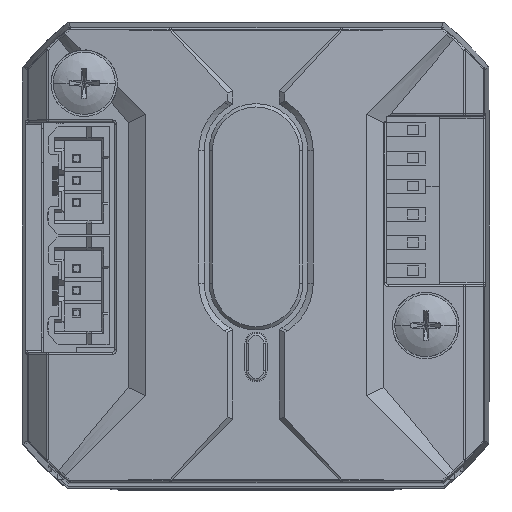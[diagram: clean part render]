
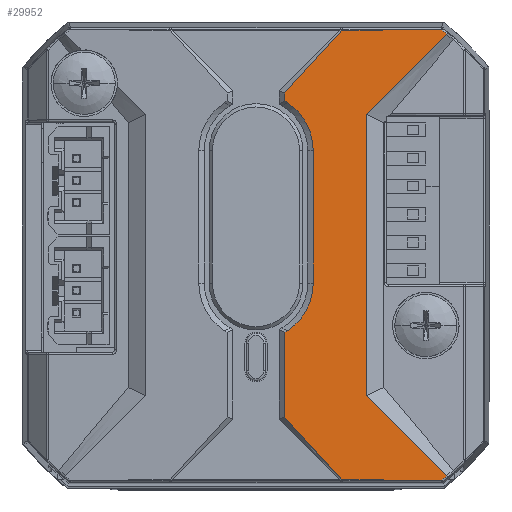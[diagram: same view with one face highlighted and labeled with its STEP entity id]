
A CAD part, top view. The second image highlights one B-rep face of the part: STEP entity #29952.
In plain terms, the highlighted planar face has unit normal (0.088, 0, 0.996).
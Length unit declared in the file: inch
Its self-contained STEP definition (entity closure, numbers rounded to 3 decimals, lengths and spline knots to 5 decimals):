
#23418=CARTESIAN_POINT('',(-1.49073,0.68329,
3.57806));
#23457=CARTESIAN_POINT('',(-1.47252,0.668,
3.57646));
#23462=DIRECTION('',(0.706,-0.706,-0.062));
#23463=VECTOR('',#23462,0.40374);
#23464=CARTESIAN_POINT('',(-1.75744,-0.61536,
3.60152));
#23465=LINE('',#23464,#23463);
#23469=CARTESIAN_POINT('',(-2.14462,-0.11257,
3.63557));
#23470=DIRECTION('',(-0.088,0.,-0.996));
#23471=DIRECTION('',(0.648,-0.759,-0.057));
#23472=AXIS2_PLACEMENT_3D('',#23469,#23470,#23471);
#23477=DIRECTION('',(-0.996,0.002,0.088));
#23478=VECTOR('',#23477,0.35555);
#23479=CARTESIAN_POINT('',(-1.49073,-0.9156,
3.57806));
#23480=LINE('',#23479,#23478);
#23484=DIRECTION('',(-0.672,0.738,0.059));
#23485=VECTOR('',#23484,0.30244);
#23486=CARTESIAN_POINT('',(-1.8449,-0.91478,
3.60921));
#23487=LINE('',#23486,#23485);
#23491=DIRECTION('',(0.,1.,0.));
#23492=VECTOR('',#23491,0.29961);
#23493=CARTESIAN_POINT('',(-2.04808,-0.69146,
3.62708));
#23494=LINE('',#23493,#23492);
#23498=CARTESIAN_POINT('',(-2.04808,-0.39185,
3.62708));
#23499=CARTESIAN_POINT('',(-2.04693,-0.39119,
3.62698));
#23500=CARTESIAN_POINT('',(-2.04466,-0.38985,
3.62678));
#23501=CARTESIAN_POINT('',(-2.0413,-0.38777,
3.62649));
#23502=CARTESIAN_POINT('',(-2.03908,-0.38634,
3.62629));
#23503=CARTESIAN_POINT('',(-2.03799,-0.38562,
3.6262));
#23508=CARTESIAN_POINT('',(-2.03799,-0.38562,
3.6262));
#23509=CARTESIAN_POINT('',(-2.02667,-0.37818,
3.6252));
#23510=CARTESIAN_POINT('',(-2.00601,-0.3614,
3.62338));
#23511=CARTESIAN_POINT('',(-1.98019,-0.33028,
3.62111));
#23512=CARTESIAN_POINT('',(-1.96107,-0.29478,
3.61943));
#23513=CARTESIAN_POINT('',(-1.94926,-0.25605,
3.61839));
#23514=CARTESIAN_POINT('',(-1.9466,-0.2295,
3.61816));
#23515=CARTESIAN_POINT('',(-1.94658,-0.21593,
3.61816));
#23520=DIRECTION('',(0.,1.,0.));
#23521=VECTOR('',#23520,0.4708);
#23522=CARTESIAN_POINT('',(-1.94658,-0.21593,
3.61816));
#23523=LINE('',#23522,#23521);
#23527=CARTESIAN_POINT('',(-1.94658,0.25487,
3.61816));
#23528=CARTESIAN_POINT('',(-1.9466,0.26844,
3.61816));
#23529=CARTESIAN_POINT('',(-1.94926,0.295,
3.61839));
#23530=CARTESIAN_POINT('',(-1.96107,0.33372,
3.61943));
#23531=CARTESIAN_POINT('',(-1.98019,0.36922,
3.62111));
#23532=CARTESIAN_POINT('',(-2.00601,0.40034,
3.62338));
#23533=CARTESIAN_POINT('',(-2.02666,0.41712,
3.6252));
#23534=CARTESIAN_POINT('',(-2.03798,0.42456,
3.6262));
#23539=CARTESIAN_POINT('',(-2.03798,0.42456,
3.6262));
#23540=CARTESIAN_POINT('',(-2.03908,0.42528,
3.62629));
#23541=CARTESIAN_POINT('',(-2.0413,0.42671,
3.62649));
#23542=CARTESIAN_POINT('',(-2.04466,0.42879,
3.62678));
#23543=CARTESIAN_POINT('',(-2.04693,0.43014,
3.62698));
#23544=CARTESIAN_POINT('',(-2.04808,0.4308,
3.62708));
#23549=DIRECTION('',(0.672,0.738,-0.059));
#23550=VECTOR('',#23549,0.30244);
#23551=CARTESIAN_POINT('',(-2.04808,0.45916,
3.62708));
#23552=LINE('',#23551,#23550);
#23556=DIRECTION('',(0.996,0.002,-0.088));
#23557=VECTOR('',#23556,0.35555);
#23558=CARTESIAN_POINT('',(-1.8449,0.68248,
3.60921));
#23559=LINE('',#23558,#23557);
#23563=CARTESIAN_POINT('',(-2.14464,-0.11976,
3.63557));
#23564=DIRECTION('',(-0.088,0.,-0.996));
#23565=DIRECTION('',(0.63,0.774,-0.055));
#23566=AXIS2_PLACEMENT_3D('',#23563,#23564,#23565);
#23571=DIRECTION('',(-0.706,-0.706,0.062));
#23572=VECTOR('',#23571,0.40374);
#23573=CARTESIAN_POINT('',(-1.47252,0.668,
3.57646));
#23574=LINE('',#23573,#23572);
#25933=DIRECTION('',(0.,-1.,0.));
#25934=VECTOR('',#25933,0.02836);
#25935=CARTESIAN_POINT('',(-2.04808,0.45916,
3.62708));
#25936=LINE('',#25935,#25934);
#26456=DIRECTION('',(0.,1.,0.));
#26457=VECTOR('',#26456,0.99841);
#26458=CARTESIAN_POINT('',(-1.75744,-0.61536,
3.60152));
#26459=LINE('',#26458,#26457);
#27872=VERTEX_POINT('',#23418);
#27874=VERTEX_POINT('',#23457);
#27875=CARTESIAN_POINT('',(-1.75744,-0.61536,
3.60152));
#27876=CARTESIAN_POINT('',(-1.47252,-0.9003,
3.57646));
#27877=VERTEX_POINT('',#27875);
#27878=VERTEX_POINT('',#27876);
#27879=CARTESIAN_POINT('',(-1.49073,-0.9156,
3.57806));
#27880=CARTESIAN_POINT('',(-1.8449,-0.91478,
3.60921));
#27881=VERTEX_POINT('',#27879);
#27882=VERTEX_POINT('',#27880);
#27883=CARTESIAN_POINT('',(-1.8449,0.68248,
3.60921));
#27884=VERTEX_POINT('',#27883);
#27885=CARTESIAN_POINT('',(-1.75744,0.38305,
3.60152));
#27886=VERTEX_POINT('',#27885);
#28281=CARTESIAN_POINT('',(-2.04808,-0.69146,
3.62708));
#28282=VERTEX_POINT('',#28281);
#28283=CARTESIAN_POINT('',(-2.04808,-0.39185,
3.62708));
#28284=VERTEX_POINT('',#28283);
#28285=VERTEX_POINT('',#23503);
#28286=VERTEX_POINT('',#23515);
#28287=CARTESIAN_POINT('',(-1.94658,0.25487,
3.61816));
#28288=VERTEX_POINT('',#28287);
#28289=VERTEX_POINT('',#23534);
#28290=VERTEX_POINT('',#23544);
#28291=CARTESIAN_POINT('',(-2.04808,0.45916,
3.62708));
#28292=VERTEX_POINT('',#28291);
#29914=CARTESIAN_POINT('',(-1.76029,-0.11615,
3.60177));
#29915=DIRECTION('',(0.088,0.,0.996));
#29916=DIRECTION('',(0.996,0.,-0.088));
#29917=AXIS2_PLACEMENT_3D('',#29914,#29915,#29916);
#29918=PLANE('',#29917);
#29920=ORIENTED_EDGE('',*,*,#29919,.T.);
#29922=ORIENTED_EDGE('',*,*,#29921,.T.);
#29924=ORIENTED_EDGE('',*,*,#29923,.T.);
#29926=ORIENTED_EDGE('',*,*,#29925,.T.);
#29928=ORIENTED_EDGE('',*,*,#29927,.T.);
#29930=ORIENTED_EDGE('',*,*,#29929,.T.);
#29932=ORIENTED_EDGE('',*,*,#29931,.T.);
#29934=ORIENTED_EDGE('',*,*,#29933,.T.);
#29936=ORIENTED_EDGE('',*,*,#29935,.T.);
#29938=ORIENTED_EDGE('',*,*,#29937,.T.);
#29940=ORIENTED_EDGE('',*,*,#29939,.F.);
#29942=ORIENTED_EDGE('',*,*,#29941,.T.);
#29944=ORIENTED_EDGE('',*,*,#29943,.T.);
#29945=ORIENTED_EDGE('',*,*,#29905,.T.);
#29947=ORIENTED_EDGE('',*,*,#29946,.T.);
#29949=ORIENTED_EDGE('',*,*,#29948,.F.);
#29950=EDGE_LOOP('',(#29920,#29922,#29924,#29926,#29928,#29930,#29932,#29934,
#29936,#29938,#29940,#29942,#29944,#29945,#29947,#29949));
#29951=FACE_OUTER_BOUND('',#29950,.F.);
#23473=CIRCLE('',#23472,1.03718);
#23504=B_SPLINE_CURVE_WITH_KNOTS('',3,(#23498,#23499,#23500,#23501,#23502,
#23503),.UNSPECIFIED.,.F.,.F.,(4,1,1,4),(0.,0.33333,
0.66667,1.),.UNSPECIFIED.);
#23516=B_SPLINE_CURVE_WITH_KNOTS('',3,(#23508,#23509,#23510,#23511,#23512,
#23513,#23514,#23515),.UNSPECIFIED.,.F.,.F.,(4,1,1,1,1,4),(0.,0.2,0.4,
0.6,0.8,1.),.UNSPECIFIED.);
#23535=B_SPLINE_CURVE_WITH_KNOTS('',3,(#23527,#23528,#23529,#23530,#23531,
#23532,#23533,#23534),.UNSPECIFIED.,.F.,.F.,(4,1,1,1,1,4),(0.,0.2,0.4,
0.6,0.8,1.),.UNSPECIFIED.);
#23545=B_SPLINE_CURVE_WITH_KNOTS('',3,(#23539,#23540,#23541,#23542,#23543,
#23544),.UNSPECIFIED.,.F.,.F.,(4,1,1,4),(0.,0.33333,
0.66667,1.),.UNSPECIFIED.);
#23567=CIRCLE('',#23566,1.03721);
#29905=EDGE_CURVE('',#27872,#27874,#23567,.T.);
#29919=EDGE_CURVE('',#27877,#27878,#23465,.T.);
#29921=EDGE_CURVE('',#27878,#27881,#23473,.T.);
#29923=EDGE_CURVE('',#27881,#27882,#23480,.T.);
#29925=EDGE_CURVE('',#27882,#28282,#23487,.T.);
#29927=EDGE_CURVE('',#28282,#28284,#23494,.T.);
#29929=EDGE_CURVE('',#28284,#28285,#23504,.T.);
#29931=EDGE_CURVE('',#28285,#28286,#23516,.T.);
#29933=EDGE_CURVE('',#28286,#28288,#23523,.T.);
#29935=EDGE_CURVE('',#28288,#28289,#23535,.T.);
#29937=EDGE_CURVE('',#28289,#28290,#23545,.T.);
#29939=EDGE_CURVE('',#28292,#28290,#25936,.T.);
#29941=EDGE_CURVE('',#28292,#27884,#23552,.T.);
#29943=EDGE_CURVE('',#27884,#27872,#23559,.T.);
#29946=EDGE_CURVE('',#27874,#27886,#23574,.T.);
#29948=EDGE_CURVE('',#27877,#27886,#26459,.T.);
#29952=ADVANCED_FACE('',(#29951),#29918,.T.);
